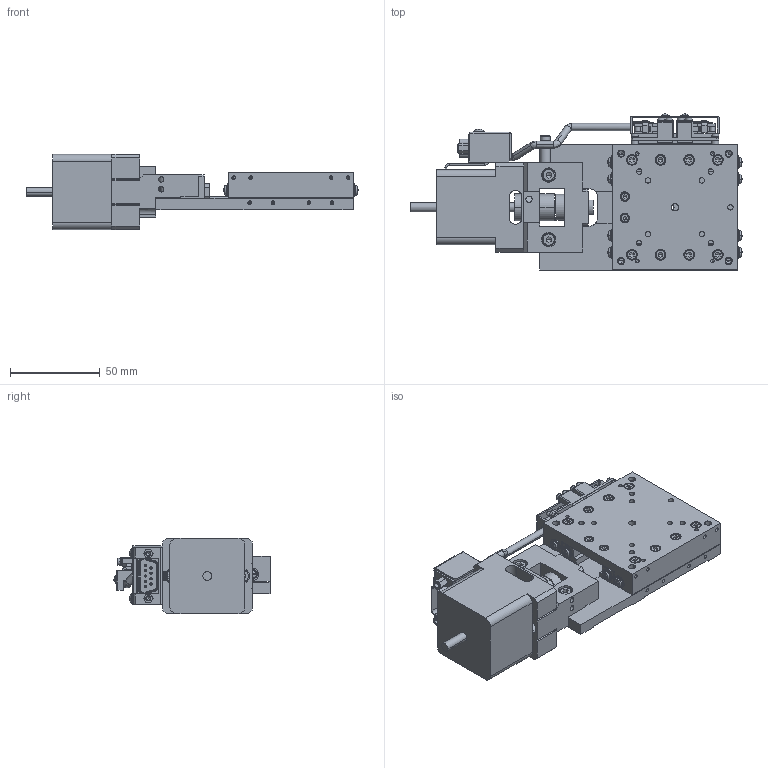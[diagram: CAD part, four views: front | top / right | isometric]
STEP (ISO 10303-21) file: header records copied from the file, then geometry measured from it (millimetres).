
FILE_DESCRIPTION( (''), '2;1');
FILE_NAME ('MVXA07A-R202-R.stp','2022-03-28T17:20:41',(''),(''),'spGate 17.5.5','','');
FILE_SCHEMA (('AUTOMOTIVE_DESIGN'));
Length unit declared in the file: millimetre
Products named in the file (3): Assembly; MVXA07A-R202-R-prt0; MVXA07A-R202-R-prt1
Assembly tree (2 placements, depth 2):
  Assembly
    MVXA07A-R202-R-prt0
    MVXA07A-R202-R-prt1
Bounding box: 185.49 x 87.18 x 42 mm (x, y, z)
Volume: 212276.3 mm3; surface area: 78550.7 mm2
Topology: 4 solids, 6 shells, 3053 faces, 7528 edges, 4589 vertices
Faces by surface type: plane 1626, cylinder 874, bspline 499, sphere 54
Entity records: 153276 total; most frequent: CARTESIAN_POINT 24885, ORIENTED_EDGE 14732, DIRECTION 13644, COLOUR_RGB 10418, PRESENTATION_STYLE_ASSIGNMENT 10418, STYLED_ITEM 10418, EDGE_CURVE 7366, DRAUGHTING_PRE_DEFINED_CURVE_FONT 7366
